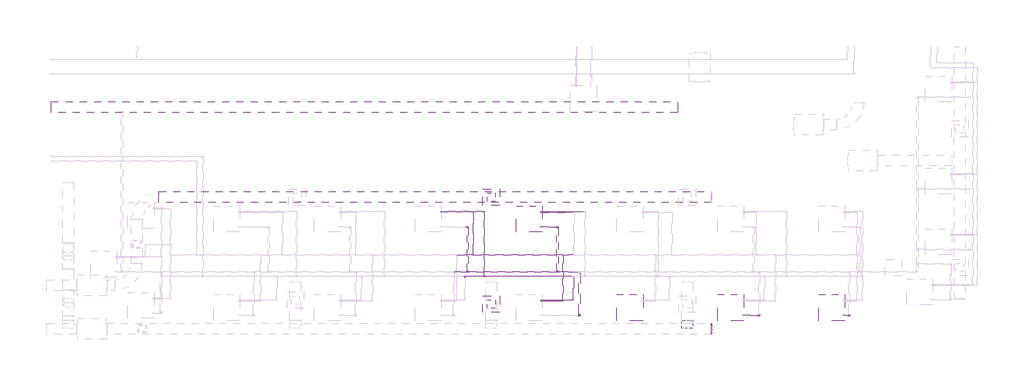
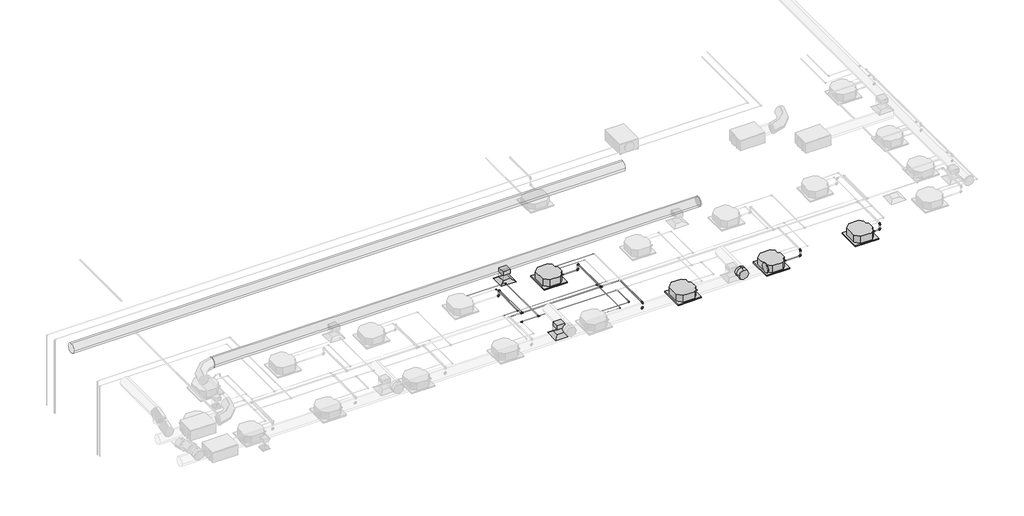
# One storey, part 9 of 22: 28 pipe fittings, 28 pipe segments, 4 duct fittings, 4 duct segments, 4 proxies, 2 air terminals.
"""IFC4 building model written with IfcOpenShell, lengths in millimetres."""

from ifc_helpers import new_model, si_unit, point, frame, frame_2d, origin, place, context, project, spatial, polyline, circle_curve, trimmed, segment, composite_curve, outline, extrude, transform, mapped, element, save
from components import air_terminal_ff221211, mechanical_equipment_53173f38, duct_fitting_2eb95573, duct_fitting_95c1ddea, m_capa_de_extremidade_redonda_c14c7098, pipe_fitting_062ba67a, pipe_fitting_144f4440, pipe_fitting_14eb6376, pipe_fitting_50f5d43d, pipe_fitting_bdfb9b50, pipe_fitting_02632e46, pipe_fitting_c900cfc2, pipe_fitting_16c020f5, pipe_fitting_fc585682, pipe_fitting_afe73776, pipe_fitting_09966660, pipe_fitting_59d1f3e3, pipe_fitting_648138cd, pipe_fitting_da16c1b3, pipe_fitting_5a6d96d3

model = new_model("IFC4")

# Units and contexts
model_context = context("Model", 3, world=origin())
ifc_project = project(units=[si_unit("LENGTHUNIT", "METRE", prefix="MILLI")], contexts=[model_context])

# Site, building, storey
site = spatial("IfcSite", under=ifc_project)
building = spatial("IfcBuilding", under=site)
storey = spatial("IfcBuildingStorey", under=building, Name="Nível 2", Elevation=3880.0)

# Air terminals
placement = place(None, origin())
air_terminal_shape = air_terminal_ff221211(model_context)
element("IfcAirTerminal", 1, ObjectType="M_Difusor de retorno : 600 x 600 Face 300 x 300 Conexão", at=placement, inside=storey, context=model_context, shape_type="MappedRepresentation", body=[
    mapped(air_terminal_shape, transform((13129.4277224, -3994.5831069, 6880.0), x_axis=(0.0, -1.0, 0.0), y_axis=(1.0, 0.0, 0.0), z_axis=(0.0, 0.0, 1.0))),
])
element("IfcAirTerminal", 2, ObjectType="M_Difusor de fornecimento : 600 x 600 Face 300 x 300 Conexão", at=placement, inside=storey, context=model_context, shape_type="MappedRepresentation", body=[
    mapped(air_terminal_shape, transform((13129.4277224, -7878.7092137, 6880.0), x_axis=(1.0, 0.0, 0.0), y_axis=(0.0, 1.0, 0.0), z_axis=(0.0, 0.0, 1.0))),
])

# Proxies
mechanical_equipment_shape = mechanical_equipment_53173f38(model_context)
element("IfcBuildingElementProxy", 3, Name="Midea_VRF_Indoor_4-way Cassette_MI-90(100,112,140)Q4_DHN1-D (2nd DC) : MI2-140Q4DHN1", ObjectType="Midea_VRF_Indoor_4-way Cassette_MI-90(100,112,140)Q4_DHN1-D (2nd DC) : MI2-140Q4DHN1", at=placement, inside=storey, context=model_context, shape_type="MappedRepresentation", body=[
    mapped(mechanical_equipment_shape, transform((25466.3682756, -8001.9200274, 6880.0), x_axis=(1.0, 0.0, 0.0), y_axis=(0.0, 1.0, 0.0), z_axis=(0.0, 0.0, 1.0))),
])
element("IfcBuildingElementProxy", 4, Name="Midea_VRF_Indoor_4-way Cassette_MI-90(100,112,140)Q4_DHN1-D (2nd DC) : MI2-140Q4DHN1", ObjectType="Midea_VRF_Indoor_4-way Cassette_MI-90(100,112,140)Q4_DHN1-D (2nd DC) : MI2-140Q4DHN1", at=placement, inside=storey, context=model_context, shape_type="MappedRepresentation", body=[
    mapped(mechanical_equipment_shape, transform((21812.1483041, -8001.9200274, 6880.0), x_axis=(1.0, 0.0, 0.0), y_axis=(0.0, 1.0, 0.0), z_axis=(0.0, 0.0, 1.0))),
])
element("IfcBuildingElementProxy", 5, Name="Midea_VRF_Indoor_4-way Cassette_MI-90(100,112,140)Q4_DHN1-D (2nd DC) : MI2-140Q4DHN1", ObjectType="Midea_VRF_Indoor_4-way Cassette_MI-90(100,112,140)Q4_DHN1-D (2nd DC) : MI2-140Q4DHN1", at=placement, inside=storey, context=model_context, shape_type="MappedRepresentation", body=[
    mapped(mechanical_equipment_shape, transform((18157.9283325, -8001.9200274, 6880.0), x_axis=(1.0, 0.0, 0.0), y_axis=(0.0, 1.0, 0.0), z_axis=(0.0, 0.0, 1.0))),
])
element("IfcBuildingElementProxy", 6, Name="Midea_VRF_Indoor_4-way Cassette_MI-90(100,112,140)Q4_DHN1-D (2nd DC) : MI2-140Q4DHN1", ObjectType="Midea_VRF_Indoor_4-way Cassette_MI-90(100,112,140)Q4_DHN1-D (2nd DC) : MI2-140Q4DHN1", at=placement, inside=storey, context=model_context, shape_type="MappedRepresentation", body=[
    mapped(mechanical_equipment_shape, transform((14503.708361, -4786.5566502, 6880.0), x_axis=(1.0, 0.0, 0.0), y_axis=(0.0, 1.0, 0.0), z_axis=(0.0, 0.0, 1.0))),
])

# Duct fittings
duct_fitting_shape = duct_fitting_2eb95573(model_context)
element("IfcDuctFitting", 7, ObjectType="M_Encaixe de duto redondo : Padrão", at=placement, inside=storey, context=model_context, shape_type="MappedRepresentation", body=[
    mapped(duct_fitting_shape, transform((20232.8009118, -8563.8997628, 7501.0), x_axis=(0.0, 1.0, 0.0), y_axis=(1.0, 0.0, 0.0), z_axis=(0.0, 0.0, -1.0))),
])
duct_fitting_2_shape = duct_fitting_95c1ddea(model_context)
element("IfcDuctFitting", 8, ObjectType="M_Encaixe de duto retangular : Padrão", at=placement, inside=storey, context=model_context, shape_type="MappedRepresentation", body=[
    mapped(duct_fitting_2_shape, transform((13129.4277224, -7878.7092137, 7301.0), x_axis=(0.0, 0.0, -1.0), y_axis=(0.0, -1.0, 0.0), z_axis=(-1.0, 0.0, 0.0))),
])
element("IfcDuctFitting", 9, ObjectType="M_Encaixe de duto retangular : Padrão", at=placement, inside=storey, context=model_context, shape_type="MappedRepresentation", body=[
    mapped(duct_fitting_2_shape, transform((13129.4277224, -3994.5831069, 7301.0), x_axis=(0.0, 0.0, -1.0), y_axis=(-1.0, 0.0, 0.0), z_axis=(0.0, 1.0, 0.0))),
])
m_capa_de_extremidade_redonda_shape = m_capa_de_extremidade_redonda_c14c7098(model_context)
element("IfcDuctFitting", 10, ObjectType="M_Capa de extremidade redonda : Padrão", at=placement, inside=storey, context=model_context, shape_type="MappedRepresentation", body=[
    mapped(m_capa_de_extremidade_redonda_shape, transform((21103.5312703, -8763.8997628, 7501.0), x_axis=(1.0, 0.0, 0.0), y_axis=(0.0, 1.0, 0.0), z_axis=(0.0, 0.0, 1.0))),
])

# Duct segments
element("IfcDuctSegment", 11, ObjectType="Torneiras / Raio curto", at=placement, inside=storey, context=model_context, shape_type="SweptSolid", body=[
    extrude(outline(composite_curve([segment(trimmed(circle_curve(frame_2d((-3994.5831069, 7501.0)), 200.0), [point((-4194.5831069, 7501.0))], [point((-3994.5831069, 7701.0))], False, "CARTESIAN"), True, "CONTINUOUS"), segment(trimmed(circle_curve(frame_2d((-3994.5831069, 7501.0)), 200.0), [point((-3994.5831069, 7701.0))], [point((-3794.5831069, 7501.0))], False, "CARTESIAN"), True, "CONTINUOUS"), segment(trimmed(circle_curve(frame_2d((-3994.5831069, 7501.0)), 200.0), [point((-3794.5831069, 7501.0))], [point((-3994.5831069, 7301.0))], False, "CARTESIAN"), True, "CONTINUOUS"), segment(trimmed(circle_curve(frame_2d((-3994.5831069, 7501.0)), 200.0), [point((-3994.5831069, 7301.0))], [point((-4194.5831069, 7501.0))], False, "CARTESIAN"), True, "CONTINUOUS")], self_intersect=False)), frame((1083.5312703, 0.0, 0.0), z_axis=(1.0, 0.0, 0.0), x_axis=(0.0, 1.0, 0.0)), (0.0, 0.0, 1.0), 20020.0),
])
element("IfcDuctSegment", 12, ObjectType="Raios cotovelos / torneiras", at=placement, inside=storey, context=model_context, shape_type="SweptSolid", body=[
    extrude(outline(polyline([(13279.4277224, -7728.7092137), (13279.4277224, -8028.7092137), (12979.4277224, -8028.7092137), (12979.4277224, -7728.7092137), (13279.4277224, -7728.7092137)])), frame((0.0, 0.0, 6981.6), z_axis=(0.0, 0.0, 1.0), x_axis=(1.0, 0.0, 0.0)), (0.0, 0.0, 1.0), 217.8),
])
element("IfcDuctSegment", 13, ObjectType="Raios cotovelos / torneiras", at=placement, inside=storey, context=model_context, shape_type="SweptSolid", body=[
    extrude(outline(polyline([(13279.4277224, -4144.5831069), (12979.4277224, -4144.5831069), (12979.4277224, -3844.5831069), (13279.4277224, -3844.5831069), (13279.4277224, -4144.5831069)])), frame((0.0, 0.0, 6981.6), z_axis=(0.0, 0.0, 1.0), x_axis=(1.0, 0.0, 0.0)), (0.0, 0.0, 1.0), 217.8),
])
element("IfcDuctSegment", 14, ObjectType="Torneiras / Raio curto", at=placement, inside=storey, context=model_context, shape_type="SweptSolid", body=[
    extrude(outline(composite_curve([segment(trimmed(circle_curve(frame_2d((-724.1631352, 7501.0)), 200.0), [point((-524.1631352, 7501.0))], [point((-724.1631352, 7301.0))], False, "CARTESIAN"), True, "CONTINUOUS"), segment(trimmed(circle_curve(frame_2d((-724.1631352, 7501.0)), 200.0), [point((-724.1631352, 7301.0))], [point((-924.1631352, 7501.0))], False, "CARTESIAN"), True, "CONTINUOUS"), segment(trimmed(circle_curve(frame_2d((-724.1631352, 7501.0)), 200.0), [point((-924.1631352, 7501.0))], [point((-724.1631352, 7701.0))], False, "CARTESIAN"), True, "CONTINUOUS"), segment(trimmed(circle_curve(frame_2d((-724.1631352, 7501.0)), 200.0), [point((-724.1631352, 7701.0))], [point((-524.1631352, 7501.0))], False, "CARTESIAN"), True, "CONTINUOUS")], self_intersect=False)), frame((-2817.3503695, 0.0, 0.0), z_axis=(1.0, 0.0, 0.0), x_axis=(0.0, 1.0, 0.0)), (0.0, 0.0, 1.0), 22700.0),
])

# Pipe fittings
pipe_fitting_shape = pipe_fitting_062ba67a(model_context)
element("IfcPipeFitting", 15, ObjectType="Cotovelo - PVC - CW : Padrão", at=placement, inside=storey, context=model_context, shape_type="MappedRepresentation", body=[
    mapped(pipe_fitting_shape, transform((26111.3682755, -8286.9200274, 7132.3), x_axis=(0.999999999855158, 0.0, -1.7020106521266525e-05), y_axis=(1.7020106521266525e-05, 0.0, 0.999999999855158), z_axis=(0.0, -1.0, 0.0))),
])
pipe_fitting_2_shape = pipe_fitting_144f4440(model_context)
element("IfcPipeFitting", 16, ObjectType="Cotovelo - PVC - CW : Padrão", at=placement, inside=storey, context=model_context, shape_type="MappedRepresentation", body=[
    mapped(pipe_fitting_2_shape, transform((12274.4883894, -5071.5566502, 7380.0), x_axis=(0.0, 0.0, 1.0), y_axis=(0.0, -1.0, 0.0), z_axis=(1.0, 0.0, 0.0))),
])
element("IfcPipeFitting", 17, ObjectType="Cotovelo - PVC - CW : Padrão", at=placement, inside=storey, context=model_context, shape_type="MappedRepresentation", body=[
    mapped(pipe_fitting_2_shape, transform((16328.708361, -8286.9200274, 7380.0), x_axis=(0.0, 0.0, 1.0), y_axis=(0.0, 1.0, 0.0), z_axis=(-1.0, 0.0, 0.0))),
])
element("IfcPipeFitting", 18, ObjectType="Cotovelo - PVC - CW : Padrão", at=placement, inside=storey, context=model_context, shape_type="MappedRepresentation", body=[
    mapped(pipe_fitting_2_shape, transform((15528.7083609, -5071.5566502, 7380.0), x_axis=(0.0, 0.0, 1.0), y_axis=(0.0, -1.0, 0.0), z_axis=(1.0, 0.0, 0.0))),
])
element("IfcPipeFitting", 19, ObjectType="Cotovelo - PVC - CW : Padrão", at=placement, inside=storey, context=model_context, shape_type="MappedRepresentation", body=[
    mapped(pipe_fitting_2_shape, transform((22837.148304, -8286.9200274, 7380.0), x_axis=(0.0, 0.0, 1.0), y_axis=(0.0, 1.0, 0.0), z_axis=(-1.0, 0.0, 0.0))),
])
element("IfcPipeFitting", 20, ObjectType="Cotovelo - PVC - CW : Padrão", at=placement, inside=storey, context=model_context, shape_type="MappedRepresentation", body=[
    mapped(pipe_fitting_2_shape, transform((26111.3682755, -8286.9200274, 7380.0), x_axis=(0.0, 0.0, 1.0), y_axis=(0.0, 1.0, 0.0), z_axis=(-1.0, 0.0, 0.0))),
])
pipe_fitting_3_shape = pipe_fitting_14eb6376(model_context)
element("IfcPipeFitting", 21, ObjectType="Tê de redução - PVC - CW : Padrão", at=placement, inside=storey, context=model_context, shape_type="MappedRepresentation", body=[
    mapped(pipe_fitting_3_shape, transform((12274.4883894, -6706.7007344, 7380.0), x_axis=(-1.0, 0.0, 0.0), y_axis=(0.0, -1.0, 0.0), z_axis=(0.0, 0.0, 1.0))),
])
element("IfcPipeFitting", 22, ObjectType="Tê de redução - PVC - CW : Padrão", at=placement, inside=storey, context=model_context, shape_type="MappedRepresentation", body=[
    mapped(pipe_fitting_3_shape, transform((15528.7083609, -6706.7007344, 7380.0), x_axis=(-1.0, 0.0, 0.0), y_axis=(0.0, -1.0, 0.0), z_axis=(0.0, 0.0, 1.0))),
])
pipe_fitting_4_shape = pipe_fitting_50f5d43d(model_context)
element("IfcPipeFitting", 23, ObjectType="Cotovelo - PVC - CW : Padrão", at=placement, inside=storey, context=model_context, shape_type="MappedRepresentation", body=[
    mapped(pipe_fitting_4_shape, transform((15528.7083609, -5071.5566502, 7132.3), x_axis=(0.9999999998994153, 0.0, -1.4183422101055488e-05), y_axis=(1.4183422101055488e-05, 0.0, 0.9999999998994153), z_axis=(0.0, -1.0, 0.0))),
])
element("IfcPipeFitting", 24, ObjectType="Cotovelo - PVC - CW : Padrão", at=placement, inside=storey, context=model_context, shape_type="MappedRepresentation", body=[
    mapped(pipe_fitting_4_shape, transform((22837.148304, -8286.9200274, 7132.3), x_axis=(0.9999999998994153, 0.0, -1.4183422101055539e-05), y_axis=(1.4183422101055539e-05, 0.0, 0.9999999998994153), z_axis=(0.0, -1.0, 0.0))),
])
pipe_fitting_5_shape = pipe_fitting_bdfb9b50(model_context)
element("IfcPipeFitting", 25, ObjectType="Cotovelo - PVC - CW : Padrão", at=placement, inside=storey, context=model_context, shape_type="MappedRepresentation", body=[
    mapped(pipe_fitting_5_shape, transform((12274.4883894, -5071.5566502, 7132.3), x_axis=(0.9999999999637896, 0.0, -8.510053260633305e-06), y_axis=(8.510053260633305e-06, 0.0, 0.9999999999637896), z_axis=(0.0, -1.0, 0.0))),
])
pipe_fitting_6_shape = pipe_fitting_02632e46(model_context)
element("IfcPipeFitting", 26, ObjectType="Cotovelo - PVC - CW : Padrão", at=placement, inside=storey, context=model_context, shape_type="MappedRepresentation", body=[
    mapped(pipe_fitting_6_shape, transform((16328.708361, -8286.9200274, 7132.3), x_axis=(0.9999999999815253, 0.0, -6.078609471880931e-06), y_axis=(6.078609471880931e-06, 0.0, 0.9999999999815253), z_axis=(0.0, -1.0, 0.0))),
])
pipe_fitting_7_shape = pipe_fitting_c900cfc2(model_context)
element("IfcPipeFitting", 27, ObjectType="Bucha de redução reta - Soldada - CU : Padrão", at=placement, inside=storey, context=model_context, shape_type="MappedRepresentation", body=[
    mapped(pipe_fitting_7_shape, transform((14928.708361, -7728.7092137, 7132.3085101), x_axis=(1.0, 0.0, 0.0), y_axis=(0.0, 1.0, 0.0), z_axis=(0.0, 0.0, 1.0))),
])
pipe_fitting_8_shape = pipe_fitting_16c020f5(model_context)
element("IfcPipeFitting", 28, ObjectType="Cotovelo - Soldado - CU : Padrão", at=placement, inside=storey, context=model_context, shape_type="MappedRepresentation", body=[
    mapped(pipe_fitting_8_shape, transform((16108.708361, -7728.7092137, 7132.3085101), x_axis=(1.0, 0.0, 0.0), y_axis=(0.0, 1.0, 0.0), z_axis=(0.0, 0.0, 1.0))),
])
element("IfcPipeFitting", 29, ObjectType="Cotovelo - Soldado - CU : Padrão", at=placement, inside=storey, context=model_context, shape_type="MappedRepresentation", body=[
    mapped(pipe_fitting_8_shape, transform((12874.4883894, -4513.3458366, 7132.3085101), x_axis=(0.0, 1.0, 0.0), y_axis=(-1.0, 0.0, 0.0), z_axis=(0.0, 0.0, 1.0))),
])
pipe_fitting_9_shape = pipe_fitting_fc585682(model_context)
element("IfcPipeFitting", 30, ObjectType="Bucha de redução reta - Soldada - CU : Padrão", at=placement, inside=storey, context=model_context, shape_type="MappedRepresentation", body=[
    mapped(pipe_fitting_9_shape, transform((14928.708361, -4513.3458366, 7132.3085101), x_axis=(1.0, 0.0, 0.0), y_axis=(0.0, 1.0, 0.0), z_axis=(0.0, 0.0, 1.0))),
])
pipe_fitting_10_shape = pipe_fitting_afe73776(model_context)
element("IfcPipeFitting", 31, ObjectType="Bucha de redução reta - Soldada - CU : Padrão", at=placement, inside=storey, context=model_context, shape_type="MappedRepresentation", body=[
    mapped(pipe_fitting_10_shape, transform((12174.4883894, -6898.1281922, 7132.3085101), x_axis=(0.0, -1.0, 0.0), y_axis=(1.0, 0.0, 0.0), z_axis=(0.0, 0.0, 1.0))),
])
element("IfcPipeFitting", 32, ObjectType="Bucha de redução reta - Soldada - CU : Padrão", at=placement, inside=storey, context=model_context, shape_type="MappedRepresentation", body=[
    mapped(pipe_fitting_10_shape, transform((12874.4883894, -6837.8071922, 7132.3085101), x_axis=(0.0, 1.0, 0.0), y_axis=(-1.0, 0.0, 0.0), z_axis=(0.0, 0.0, 1.0))),
])
pipe_fitting_11_shape = pipe_fitting_09966660(model_context)
element("IfcPipeFitting", 33, ObjectType="Tê - Soldado - CU : Padrão", at=placement, inside=storey, context=model_context, shape_type="MappedRepresentation", body=[
    mapped(pipe_fitting_11_shape, transform((12174.4883894, -6867.9676922, 7132.3085101), x_axis=(-1.0, 0.0, 0.0), y_axis=(0.0, 1.0, 0.0), z_axis=(0.0, 0.0, -1.0))),
])
element("IfcPipeFitting", 34, ObjectType="Tê - Soldado - CU : Padrão", at=placement, inside=storey, context=model_context, shape_type="MappedRepresentation", body=[
    mapped(pipe_fitting_11_shape, transform((12874.4883894, -6867.9676922, 7132.3085101), x_axis=(-1.0, 0.0, 0.0), y_axis=(0.0, -1.0, 0.0), z_axis=(0.0, 0.0, 1.0))),
])
pipe_fitting_12_shape = pipe_fitting_59d1f3e3(model_context)
element("IfcPipeFitting", 35, ObjectType="Bucha de redução reta - Soldada - CU : Padrão", at=placement, inside=storey, context=model_context, shape_type="MappedRepresentation", body=[
    mapped(pipe_fitting_12_shape, transform((14928.708361, -7762.5116556, 7026.8446487), x_axis=(1.0, 0.0, 0.0), y_axis=(0.0, 1.0, 0.0), z_axis=(0.0, 0.0, 1.0))),
])
element("IfcPipeFitting", 36, ObjectType="Bucha de redução reta - Soldada - CU : Padrão", at=placement, inside=storey, context=model_context, shape_type="MappedRepresentation", body=[
    mapped(pipe_fitting_12_shape, transform((14928.708361, -4547.1482784, 7026.8446487), x_axis=(1.0, 0.0, 0.0), y_axis=(0.0, 1.0, 0.0), z_axis=(0.0, 0.0, 1.0))),
])
pipe_fitting_13_shape = pipe_fitting_648138cd(model_context)
element("IfcPipeFitting", 37, ObjectType="Cotovelo - Soldado - CU : Padrão", at=placement, inside=storey, context=model_context, shape_type="MappedRepresentation", body=[
    mapped(pipe_fitting_13_shape, transform((15728.708361, -7762.5116556, 7026.8446487), x_axis=(1.0, 0.0, 0.0), y_axis=(0.0, 1.0, 0.0), z_axis=(0.0, 0.0, 1.0))),
])
element("IfcPipeFitting", 38, ObjectType="Cotovelo - Soldado - CU : Padrão", at=placement, inside=storey, context=model_context, shape_type="MappedRepresentation", body=[
    mapped(pipe_fitting_13_shape, transform((12474.4883894, -4547.1482784, 7026.8446487), x_axis=(0.0, 1.0, 0.0), y_axis=(-1.0, 0.0, 0.0), z_axis=(0.0, 0.0, 1.0))),
])
pipe_fitting_14_shape = pipe_fitting_da16c1b3(model_context)
element("IfcPipeFitting", 39, ObjectType="Tê - Soldado - CU : Padrão", at=placement, inside=storey, context=model_context, shape_type="MappedRepresentation", body=[
    mapped(pipe_fitting_14_shape, transform((15728.708361, -6091.0991488, 7026.8446487), x_axis=(-1.0, 0.0, 0.0), y_axis=(0.0, 1.0, 0.0), z_axis=(0.0, 0.0, -1.0))),
])
element("IfcPipeFitting", 40, ObjectType="Tê - Soldado - CU : Padrão", at=placement, inside=storey, context=model_context, shape_type="MappedRepresentation", body=[
    mapped(pipe_fitting_14_shape, transform((12474.4883894, -6091.0991488, 7026.8446487), x_axis=(-1.0, 0.0, 0.0), y_axis=(0.0, -1.0, 0.0), z_axis=(0.0, 0.0, 1.0))),
])
pipe_fitting_15_shape = pipe_fitting_5a6d96d3(model_context)
element("IfcPipeFitting", 41, ObjectType="Bucha de redução reta - Soldada - CU : Padrão", at=placement, inside=storey, context=model_context, shape_type="MappedRepresentation", body=[
    mapped(pipe_fitting_15_shape, transform((15728.708361, -6116.1161488, 7026.8446487), x_axis=(0.0, -1.0, 0.0), y_axis=(1.0, 0.0, 0.0), z_axis=(0.0, 0.0, 1.0))),
])
element("IfcPipeFitting", 42, ObjectType="Bucha de redução reta - Soldada - CU : Padrão", at=placement, inside=storey, context=model_context, shape_type="MappedRepresentation", body=[
    mapped(pipe_fitting_15_shape, transform((12474.4883894, -6066.0821488, 7026.8446487), x_axis=(0.0, 1.0, 0.0), y_axis=(-1.0, 0.0, 0.0), z_axis=(0.0, 0.0, 1.0))),
])

# Pipe segments
element("IfcPipeSegment", 43, ObjectType="Tubos de cobre HVAC", at=placement, inside=storey, context=model_context, shape_type="SweptSolid", body=[
    extrude(outline(composite_curve([segment(trimmed(circle_curve(frame_2d((-7728.7092137, 7132.3085101)), 7.935), [point((-7736.6442137, 7132.3085101))], [point((-7728.7092137, 7140.2435101))], False, "CARTESIAN"), True, "CONTINUOUS"), segment(trimmed(circle_curve(frame_2d((-7728.7092137, 7132.3085101)), 7.935), [point((-7728.7092137, 7140.2435101))], [point((-7720.7742137, 7132.3085101))], False, "CARTESIAN"), True, "CONTINUOUS"), segment(trimmed(circle_curve(frame_2d((-7728.7092137, 7132.3085101)), 7.935), [point((-7720.7742137, 7132.3085101))], [point((-7728.7092137, 7124.3735101))], False, "CARTESIAN"), True, "CONTINUOUS"), segment(trimmed(circle_curve(frame_2d((-7728.7092137, 7132.3085101)), 7.935), [point((-7728.7092137, 7124.3735101))], [point((-7736.6442137, 7132.3085101))], False, "CARTESIAN"), True, "CONTINUOUS")], self_intersect=False)), frame((14941.367261, 0.0, 0.0), z_axis=(1.0, 0.0, 0.0), x_axis=(0.0, 1.0, 0.0)), (0.0, 0.0, 1.0), 1138.3625),
])
element("IfcPipeSegment", 44, ObjectType="Tubos de cobre HVAC", at=placement, inside=storey, context=model_context, shape_type="SweptSolid", body=[
    extrude(outline(composite_curve([segment(trimmed(circle_curve(frame_2d((7132.3085101, 16108.708361)), 7.935), [point((7132.3085101, 16100.773361))], [point((7124.3735101, 16108.708361))], False, "CARTESIAN"), True, "CONTINUOUS"), segment(trimmed(circle_curve(frame_2d((7132.3085101, 16108.708361)), 7.935), [point((7124.3735101, 16108.708361))], [point((7132.3085101, 16116.643361))], False, "CARTESIAN"), True, "CONTINUOUS"), segment(trimmed(circle_curve(frame_2d((7132.3085101, 16108.708361)), 7.935), [point((7132.3085101, 16116.643361))], [point((7140.2435101, 16108.708361))], False, "CARTESIAN"), True, "CONTINUOUS"), segment(trimmed(circle_curve(frame_2d((7132.3085101, 16108.708361)), 7.935), [point((7140.2435101, 16108.708361))], [point((7132.3085101, 16100.773361))], False, "CARTESIAN"), True, "CONTINUOUS")], self_intersect=False)), frame((0.0, -7699.7306137, 0.0), z_axis=(0.0, 1.0, 0.0), x_axis=(0.0, 0.0, 1.0)), (0.0, 0.0, 1.0), 788.9435215),
])
element("IfcPipeSegment", 45, ObjectType="Tubos de cobre HVAC", at=placement, inside=storey, context=model_context, shape_type="SweptSolid", body=[
    extrude(outline(composite_curve([segment(trimmed(circle_curve(frame_2d((-6867.9676922, 7132.3085101)), 9.525), [point((-6877.4926922, 7132.3085101))], [point((-6867.9676922, 7141.8335101))], False, "CARTESIAN"), True, "CONTINUOUS"), segment(trimmed(circle_curve(frame_2d((-6867.9676922, 7132.3085101)), 9.525), [point((-6867.9676922, 7141.8335101))], [point((-6858.4426922, 7132.3085101))], False, "CARTESIAN"), True, "CONTINUOUS"), segment(trimmed(circle_curve(frame_2d((-6867.9676922, 7132.3085101)), 9.525), [point((-6858.4426922, 7132.3085101))], [point((-6867.9676922, 7122.7835101))], False, "CARTESIAN"), True, "CONTINUOUS"), segment(trimmed(circle_curve(frame_2d((-6867.9676922, 7132.3085101)), 9.525), [point((-6867.9676922, 7122.7835101))], [point((-6877.4926922, 7132.3085101))], False, "CARTESIAN"), True, "CONTINUOUS")], self_intersect=False)), frame((12904.6836394, 0.0, 0.0), z_axis=(1.0, 0.0, 0.0), x_axis=(0.0, 1.0, 0.0)), (0.0, 0.0, 1.0), 3173.8294715),
])
element("IfcPipeSegment", 46, ObjectType="Tubos de cobre HVAC", at=placement, inside=storey, context=model_context, shape_type="SweptSolid", body=[
    extrude(outline(composite_curve([segment(trimmed(circle_curve(frame_2d((-4513.3458366, 7132.3085101)), 9.525), [point((-4522.8708366, 7132.3085101))], [point((-4513.3458366, 7141.8335101))], False, "CARTESIAN"), True, "CONTINUOUS"), segment(trimmed(circle_curve(frame_2d((-4513.3458366, 7132.3085101)), 9.525), [point((-4513.3458366, 7141.8335101))], [point((-4503.8208366, 7132.3085101))], False, "CARTESIAN"), True, "CONTINUOUS"), segment(trimmed(circle_curve(frame_2d((-4513.3458366, 7132.3085101)), 9.525), [point((-4503.8208366, 7132.3085101))], [point((-4513.3458366, 7122.7835101))], False, "CARTESIAN"), True, "CONTINUOUS"), segment(trimmed(circle_curve(frame_2d((-4513.3458366, 7132.3085101)), 9.525), [point((-4513.3458366, 7122.7835101))], [point((-4522.8708366, 7132.3085101))], False, "CARTESIAN"), True, "CONTINUOUS")], self_intersect=False)), frame((14941.381361, 0.0, 0.0), z_axis=(1.0, 0.0, 0.0), x_axis=(0.0, 1.0, 0.0)), (0.0, 0.0, 1.0), 1555.868),
])
element("IfcPipeSegment", 47, ObjectType="Tubos de cobre HVAC", at=placement, inside=storey, context=model_context, shape_type="SweptSolid", body=[
    extrude(outline(composite_curve([segment(trimmed(circle_curve(frame_2d((-4513.3458366, 7132.3085101)), 7.935), [point((-4521.2808366, 7132.3085101))], [point((-4513.3458366, 7140.2435101))], False, "CARTESIAN"), True, "CONTINUOUS"), segment(trimmed(circle_curve(frame_2d((-4513.3458366, 7132.3085101)), 7.935), [point((-4513.3458366, 7140.2435101))], [point((-4505.4108366, 7132.3085101))], False, "CARTESIAN"), True, "CONTINUOUS"), segment(trimmed(circle_curve(frame_2d((-4513.3458366, 7132.3085101)), 7.935), [point((-4505.4108366, 7132.3085101))], [point((-4513.3458366, 7124.3735101))], False, "CARTESIAN"), True, "CONTINUOUS"), segment(trimmed(circle_curve(frame_2d((-4513.3458366, 7132.3085101)), 7.935), [point((-4513.3458366, 7124.3735101))], [point((-4521.2808366, 7132.3085101))], False, "CARTESIAN"), True, "CONTINUOUS")], self_intersect=False)), frame((11287.1472894, 0.0, 0.0), z_axis=(1.0, 0.0, 0.0), x_axis=(0.0, 1.0, 0.0)), (0.0, 0.0, 1.0), 1558.3625),
])
element("IfcPipeSegment", 48, ObjectType="Tubos de cobre HVAC", at=placement, inside=storey, context=model_context, shape_type="SweptSolid", body=[
    extrude(outline(composite_curve([segment(trimmed(circle_curve(frame_2d((7132.3085101, 12874.4883894)), 7.935), [point((7132.3085101, 12882.4233894))], [point((7140.2435101, 12874.4883894))], False, "CARTESIAN"), True, "CONTINUOUS"), segment(trimmed(circle_curve(frame_2d((7132.3085101, 12874.4883894)), 7.935), [point((7140.2435101, 12874.4883894))], [point((7132.3085101, 12866.5533894))], False, "CARTESIAN"), True, "CONTINUOUS"), segment(trimmed(circle_curve(frame_2d((7132.3085101, 12874.4883894)), 7.935), [point((7132.3085101, 12866.5533894))], [point((7124.3735101, 12874.4883894))], False, "CARTESIAN"), True, "CONTINUOUS"), segment(trimmed(circle_curve(frame_2d((7132.3085101, 12874.4883894)), 7.935), [point((7124.3735101, 12874.4883894))], [point((7132.3085101, 12882.4233894))], False, "CARTESIAN"), True, "CONTINUOUS")], self_intersect=False)), frame((0.0, -6825.1482922, 0.0), z_axis=(0.0, 1.0, 0.0), x_axis=(0.0, 0.0, 1.0)), (0.0, 0.0, 1.0), 2282.8238557),
])
element("IfcPipeSegment", 49, ObjectType="Tubos de cobre HVAC", at=placement, inside=storey, context=model_context, shape_type="SweptSolid", body=[
    extrude(outline(composite_curve([segment(trimmed(circle_curve(frame_2d((-6867.9676922, 7132.3085101)), 9.525), [point((-6877.4926922, 7132.3085101))], [point((-6867.9676922, 7141.8335101))], False, "CARTESIAN"), True, "CONTINUOUS"), segment(trimmed(circle_curve(frame_2d((-6867.9676922, 7132.3085101)), 9.525), [point((-6867.9676922, 7141.8335101))], [point((-6858.4426922, 7132.3085101))], False, "CARTESIAN"), True, "CONTINUOUS"), segment(trimmed(circle_curve(frame_2d((-6867.9676922, 7132.3085101)), 9.525), [point((-6858.4426922, 7132.3085101))], [point((-6867.9676922, 7122.7835101))], False, "CARTESIAN"), True, "CONTINUOUS"), segment(trimmed(circle_curve(frame_2d((-6867.9676922, 7132.3085101)), 9.525), [point((-6867.9676922, 7122.7835101))], [point((-6877.4926922, 7132.3085101))], False, "CARTESIAN"), True, "CONTINUOUS")], self_intersect=False)), frame((12204.6836394, 0.0, 0.0), z_axis=(1.0, 0.0, 0.0), x_axis=(0.0, 1.0, 0.0)), (0.0, 0.0, 1.0), 639.6095),
])
element("IfcPipeSegment", 50, ObjectType="Tubos de cobre HVAC", at=placement, inside=storey, context=model_context, shape_type="SweptSolid", body=[
    extrude(outline(composite_curve([segment(trimmed(circle_curve(frame_2d((-7762.5116556, 7026.8446487)), 4.76), [point((-7767.2716556, 7026.8446487))], [point((-7762.5116556, 7031.6046487))], False, "CARTESIAN"), True, "CONTINUOUS"), segment(trimmed(circle_curve(frame_2d((-7762.5116556, 7026.8446487)), 4.76), [point((-7762.5116556, 7031.6046487))], [point((-7757.7516556, 7026.8446487))], False, "CARTESIAN"), True, "CONTINUOUS"), segment(trimmed(circle_curve(frame_2d((-7762.5116556, 7026.8446487)), 4.76), [point((-7757.7516556, 7026.8446487))], [point((-7762.5116556, 7022.0846487))], False, "CARTESIAN"), True, "CONTINUOUS"), segment(trimmed(circle_curve(frame_2d((-7762.5116556, 7026.8446487)), 4.76), [point((-7762.5116556, 7022.0846487))], [point((-7767.2716556, 7026.8446487))], False, "CARTESIAN"), True, "CONTINUOUS")], self_intersect=False)), frame((14938.382761, 0.0, 0.0), z_axis=(1.0, 0.0, 0.0), x_axis=(0.0, 1.0, 0.0)), (0.0, 0.0, 1.0), 766.3),
])
element("IfcPipeSegment", 51, ObjectType="Tubos de cobre HVAC", at=placement, inside=storey, context=model_context, shape_type="SweptSolid", body=[
    extrude(outline(composite_curve([segment(trimmed(circle_curve(frame_2d((7026.8446487, 15728.708361)), 4.76), [point((7026.8446487, 15723.948361))], [point((7022.0846487, 15728.708361))], False, "CARTESIAN"), True, "CONTINUOUS"), segment(trimmed(circle_curve(frame_2d((7026.8446487, 15728.708361)), 4.76), [point((7022.0846487, 15728.708361))], [point((7026.8446487, 15733.468361))], False, "CARTESIAN"), True, "CONTINUOUS"), segment(trimmed(circle_curve(frame_2d((7026.8446487, 15728.708361)), 4.76), [point((7026.8446487, 15733.468361))], [point((7031.6046487, 15728.708361))], False, "CARTESIAN"), True, "CONTINUOUS"), segment(trimmed(circle_curve(frame_2d((7026.8446487, 15728.708361)), 4.76), [point((7031.6046487, 15728.708361))], [point((7026.8446487, 15723.948361))], False, "CARTESIAN"), True, "CONTINUOUS")], self_intersect=False)), frame((0.0, -7738.4860556, 0.0), z_axis=(0.0, 1.0, 0.0), x_axis=(0.0, 0.0, 1.0)), (0.0, 0.0, 1.0), 1612.6955068),
])
element("IfcPipeSegment", 52, ObjectType="Tubos de cobre HVAC", at=placement, inside=storey, context=model_context, shape_type="SweptSolid", body=[
    extrude(outline(composite_curve([segment(trimmed(circle_curve(frame_2d((-6091.0991488, 7026.8446487)), 6.35), [point((-6097.4491488, 7026.8446487))], [point((-6091.0991488, 7033.1946487))], False, "CARTESIAN"), True, "CONTINUOUS"), segment(trimmed(circle_curve(frame_2d((-6091.0991488, 7026.8446487)), 6.35), [point((-6091.0991488, 7033.1946487))], [point((-6084.7491488, 7026.8446487))], False, "CARTESIAN"), True, "CONTINUOUS"), segment(trimmed(circle_curve(frame_2d((-6091.0991488, 7026.8446487)), 6.35), [point((-6084.7491488, 7026.8446487))], [point((-6091.0991488, 7020.4946487))], False, "CARTESIAN"), True, "CONTINUOUS"), segment(trimmed(circle_curve(frame_2d((-6091.0991488, 7026.8446487)), 6.35), [point((-6091.0991488, 7020.4946487))], [point((-6097.4491488, 7026.8446487))], False, "CARTESIAN"), True, "CONTINUOUS")], self_intersect=False)), frame((12499.5718894, 0.0, 0.0), z_axis=(1.0, 0.0, 0.0), x_axis=(0.0, 1.0, 0.0)), (0.0, 0.0, 1.0), 3204.0529715),
])
element("IfcPipeSegment", 53, ObjectType="Tubos de cobre HVAC", at=placement, inside=storey, context=model_context, shape_type="SweptSolid", body=[
    extrude(outline(composite_curve([segment(trimmed(circle_curve(frame_2d((-4547.1482784, 7026.8446487)), 4.76), [point((-4551.9082784, 7026.8446487))], [point((-4547.1482784, 7031.6046487))], False, "CARTESIAN"), True, "CONTINUOUS"), segment(trimmed(circle_curve(frame_2d((-4547.1482784, 7026.8446487)), 4.76), [point((-4547.1482784, 7031.6046487))], [point((-4542.3882784, 7026.8446487))], False, "CARTESIAN"), True, "CONTINUOUS"), segment(trimmed(circle_curve(frame_2d((-4547.1482784, 7026.8446487)), 4.76), [point((-4542.3882784, 7026.8446487))], [point((-4547.1482784, 7022.0846487))], False, "CARTESIAN"), True, "CONTINUOUS"), segment(trimmed(circle_curve(frame_2d((-4547.1482784, 7026.8446487)), 4.76), [point((-4547.1482784, 7022.0846487))], [point((-4551.9082784, 7026.8446487))], False, "CARTESIAN"), True, "CONTINUOUS")], self_intersect=False)), frame((14938.382761, 0.0, 0.0), z_axis=(1.0, 0.0, 0.0), x_axis=(0.0, 1.0, 0.0)), (0.0, 0.0, 1.0), 1166.3),
])
element("IfcPipeSegment", 54, ObjectType="Tubos de cobre HVAC", at=placement, inside=storey, context=model_context, shape_type="SweptSolid", body=[
    extrude(outline(composite_curve([segment(trimmed(circle_curve(frame_2d((-6091.0991488, 7026.8446487)), 6.35), [point((-6097.4491488, 7026.8446487))], [point((-6091.0991488, 7033.1946487))], False, "CARTESIAN"), True, "CONTINUOUS"), segment(trimmed(circle_curve(frame_2d((-6091.0991488, 7026.8446487)), 6.35), [point((-6091.0991488, 7033.1946487))], [point((-6084.7491488, 7026.8446487))], False, "CARTESIAN"), True, "CONTINUOUS"), segment(trimmed(circle_curve(frame_2d((-6091.0991488, 7026.8446487)), 6.35), [point((-6084.7491488, 7026.8446487))], [point((-6091.0991488, 7020.4946487))], False, "CARTESIAN"), True, "CONTINUOUS"), segment(trimmed(circle_curve(frame_2d((-6091.0991488, 7026.8446487)), 6.35), [point((-6091.0991488, 7020.4946487))], [point((-6097.4491488, 7026.8446487))], False, "CARTESIAN"), True, "CONTINUOUS")], self_intersect=False)), frame((15753.791861, 0.0, 0.0), z_axis=(1.0, 0.0, 0.0), x_axis=(0.0, 1.0, 0.0)), (0.0, 0.0, 1.0), 349.833),
])
element("IfcPipeSegment", 55, ObjectType="Tubos de cobre HVAC", at=placement, inside=storey, context=model_context, shape_type="SweptSolid", body=[
    extrude(outline(composite_curve([segment(trimmed(circle_curve(frame_2d((7026.8446487, 12474.4883894)), 4.76), [point((7026.8446487, 12479.2483894))], [point((7031.6046487, 12474.4883894))], False, "CARTESIAN"), True, "CONTINUOUS"), segment(trimmed(circle_curve(frame_2d((7026.8446487, 12474.4883894)), 4.76), [point((7031.6046487, 12474.4883894))], [point((7026.8446487, 12469.7283894))], False, "CARTESIAN"), True, "CONTINUOUS"), segment(trimmed(circle_curve(frame_2d((7026.8446487, 12474.4883894)), 4.76), [point((7026.8446487, 12469.7283894))], [point((7022.0846487, 12474.4883894))], False, "CARTESIAN"), True, "CONTINUOUS"), segment(trimmed(circle_curve(frame_2d((7026.8446487, 12474.4883894)), 4.76), [point((7022.0846487, 12474.4883894))], [point((7026.8446487, 12479.2483894))], False, "CARTESIAN"), True, "CONTINUOUS")], self_intersect=False)), frame((0.0, -6056.4077488, 0.0), z_axis=(0.0, 1.0, 0.0), x_axis=(0.0, 0.0, 1.0)), (0.0, 0.0, 1.0), 1485.2338704),
])
element("IfcPipeSegment", 56, ObjectType="Tubos de cobre HVAC", at=placement, inside=storey, context=model_context, shape_type="SweptSolid", body=[
    extrude(outline(composite_curve([segment(trimmed(circle_curve(frame_2d((-6091.0991488, 7026.8446487)), 6.35), [point((-6097.4491488, 7026.8446487))], [point((-6091.0991488, 7033.1946487))], False, "CARTESIAN"), True, "CONTINUOUS"), segment(trimmed(circle_curve(frame_2d((-6091.0991488, 7026.8446487)), 6.35), [point((-6091.0991488, 7033.1946487))], [point((-6084.7491488, 7026.8446487))], False, "CARTESIAN"), True, "CONTINUOUS"), segment(trimmed(circle_curve(frame_2d((-6091.0991488, 7026.8446487)), 6.35), [point((-6084.7491488, 7026.8446487))], [point((-6091.0991488, 7020.4946487))], False, "CARTESIAN"), True, "CONTINUOUS"), segment(trimmed(circle_curve(frame_2d((-6091.0991488, 7026.8446487)), 6.35), [point((-6091.0991488, 7020.4946487))], [point((-6097.4491488, 7026.8446487))], False, "CARTESIAN"), True, "CONTINUOUS")], self_intersect=False)), frame((11899.5718894, 0.0, 0.0), z_axis=(1.0, 0.0, 0.0), x_axis=(0.0, 1.0, 0.0)), (0.0, 0.0, 1.0), 549.833),
])
element("IfcPipeSegment", 57, ObjectType="Plástico", at=placement, inside=storey, context=model_context, shape_type="SweptSolid", body=[
    extrude(outline(composite_curve([segment(trimmed(circle_curve(frame_2d((12274.4883894, -5071.5566502)), 20.0), [point((12294.4883894, -5071.5566502))], [point((12274.4883894, -5091.5566502))], False, "CARTESIAN"), True, "CONTINUOUS"), segment(trimmed(circle_curve(frame_2d((12274.4883894, -5071.5566502)), 20.0), [point((12274.4883894, -5091.5566502))], [point((12254.4883894, -5071.5566502))], False, "CARTESIAN"), True, "CONTINUOUS"), segment(trimmed(circle_curve(frame_2d((12274.4883894, -5071.5566502)), 20.0), [point((12254.4883894, -5071.5566502))], [point((12274.4883894, -5051.5566502))], False, "CARTESIAN"), True, "CONTINUOUS"), segment(trimmed(circle_curve(frame_2d((12274.4883894, -5071.5566502)), 20.0), [point((12274.4883894, -5051.5566502))], [point((12294.4883894, -5071.5566502))], False, "CARTESIAN"), True, "CONTINUOUS")], self_intersect=False)), frame((0.0, 0.0, 7177.3001957), z_axis=(0.0, 0.0, 1.0), x_axis=(1.0, 0.0, 0.0)), (0.0, 0.0, 1.0), 157.6998043),
])
element("IfcPipeSegment", 58, ObjectType="Plástico", at=placement, inside=storey, context=model_context, shape_type="SweptSolid", body=[
    extrude(outline(composite_curve([segment(trimmed(circle_curve(frame_2d((7380.0, 12274.4883894)), 20.0), [point((7380.0, 12294.4883894))], [point((7400.0, 12274.4883894))], False, "CARTESIAN"), True, "CONTINUOUS"), segment(trimmed(circle_curve(frame_2d((7380.0, 12274.4883894)), 20.0), [point((7400.0, 12274.4883894))], [point((7380.0, 12254.4883894))], False, "CARTESIAN"), True, "CONTINUOUS"), segment(trimmed(circle_curve(frame_2d((7380.0, 12274.4883894)), 20.0), [point((7380.0, 12254.4883894))], [point((7360.0, 12274.4883894))], False, "CARTESIAN"), True, "CONTINUOUS"), segment(trimmed(circle_curve(frame_2d((7380.0, 12274.4883894)), 20.0), [point((7360.0, 12274.4883894))], [point((7380.0, 12294.4883894))], False, "CARTESIAN"), True, "CONTINUOUS")], self_intersect=False)), frame((0.0, -6662.7007344, 0.0), z_axis=(0.0, 1.0, 0.0), x_axis=(0.0, 0.0, 1.0)), (0.0, 0.0, 1.0), 1546.1440842),
])
element("IfcPipeSegment", 59, ObjectType="Plástico", at=placement, inside=storey, context=model_context, shape_type="SweptSolid", body=[
    extrude(outline(composite_curve([segment(trimmed(circle_curve(frame_2d((-6706.7007344, 7380.0)), 20.0), [point((-6726.7007344, 7380.0))], [point((-6706.7007344, 7400.0))], False, "CARTESIAN"), True, "CONTINUOUS"), segment(trimmed(circle_curve(frame_2d((-6706.7007344, 7380.0)), 20.0), [point((-6706.7007344, 7400.0))], [point((-6686.7007344, 7380.0))], False, "CARTESIAN"), True, "CONTINUOUS"), segment(trimmed(circle_curve(frame_2d((-6706.7007344, 7380.0)), 20.0), [point((-6686.7007344, 7380.0))], [point((-6706.7007344, 7360.0))], False, "CARTESIAN"), True, "CONTINUOUS"), segment(trimmed(circle_curve(frame_2d((-6706.7007344, 7380.0)), 20.0), [point((-6706.7007344, 7360.0))], [point((-6726.7007344, 7380.0))], False, "CARTESIAN"), True, "CONTINUOUS")], self_intersect=False)), frame((11817.7383894, 0.0, 0.0), z_axis=(1.0, 0.0, 0.0), x_axis=(0.0, 1.0, 0.0)), (0.0, 0.0, 1.0), 413.5),
])
element("IfcPipeSegment", 60, ObjectType="Plástico", at=placement, inside=storey, context=model_context, shape_type="SweptSolid", body=[
    extrude(outline(composite_curve([segment(trimmed(circle_curve(frame_2d((16328.708361, -8286.9200274)), 20.0), [point((16308.708361, -8286.9200274))], [point((16328.708361, -8266.9200274))], False, "CARTESIAN"), True, "CONTINUOUS"), segment(trimmed(circle_curve(frame_2d((16328.708361, -8286.9200274)), 20.0), [point((16328.708361, -8266.9200274))], [point((16348.708361, -8286.9200274))], False, "CARTESIAN"), True, "CONTINUOUS"), segment(trimmed(circle_curve(frame_2d((16328.708361, -8286.9200274)), 20.0), [point((16348.708361, -8286.9200274))], [point((16328.708361, -8306.9200274))], False, "CARTESIAN"), True, "CONTINUOUS"), segment(trimmed(circle_curve(frame_2d((16328.708361, -8286.9200274)), 20.0), [point((16328.708361, -8306.9200274))], [point((16308.708361, -8286.9200274))], False, "CARTESIAN"), True, "CONTINUOUS")], self_intersect=False)), frame((0.0, 0.0, 7177.3001398), z_axis=(0.0, 0.0, 1.0), x_axis=(1.0, 0.0, 0.0)), (0.0, 0.0, 1.0), 157.6998602),
])
element("IfcPipeSegment", 61, ObjectType="Plástico", at=placement, inside=storey, context=model_context, shape_type="SweptSolid", body=[
    extrude(outline(composite_curve([segment(trimmed(circle_curve(frame_2d((7380.0, 16328.708361)), 20.0), [point((7380.0, 16308.708361))], [point((7360.0, 16328.708361))], False, "CARTESIAN"), True, "CONTINUOUS"), segment(trimmed(circle_curve(frame_2d((7380.0, 16328.708361)), 20.0), [point((7360.0, 16328.708361))], [point((7380.0, 16348.708361))], False, "CARTESIAN"), True, "CONTINUOUS"), segment(trimmed(circle_curve(frame_2d((7380.0, 16328.708361)), 20.0), [point((7380.0, 16348.708361))], [point((7400.0, 16328.708361))], False, "CARTESIAN"), True, "CONTINUOUS"), segment(trimmed(circle_curve(frame_2d((7380.0, 16328.708361)), 20.0), [point((7400.0, 16328.708361))], [point((7380.0, 16308.708361))], False, "CARTESIAN"), True, "CONTINUOUS")], self_intersect=False)), frame((0.0, -8241.9200274, 0.0), z_axis=(0.0, 1.0, 0.0), x_axis=(0.0, 0.0, 1.0)), (0.0, 0.0, 1.0), 1491.219293),
])
element("IfcPipeSegment", 62, ObjectType="Plástico", at=placement, inside=storey, context=model_context, shape_type="SweptSolid", body=[
    extrude(outline(composite_curve([segment(trimmed(circle_curve(frame_2d((-6706.7007344, 7380.0)), 20.0), [point((-6726.7007344, 7380.0))], [point((-6706.7007344, 7400.0))], False, "CARTESIAN"), True, "CONTINUOUS"), segment(trimmed(circle_curve(frame_2d((-6706.7007344, 7380.0)), 20.0), [point((-6706.7007344, 7400.0))], [point((-6686.7007344, 7380.0))], False, "CARTESIAN"), True, "CONTINUOUS"), segment(trimmed(circle_curve(frame_2d((-6706.7007344, 7380.0)), 20.0), [point((-6686.7007344, 7380.0))], [point((-6706.7007344, 7360.0))], False, "CARTESIAN"), True, "CONTINUOUS"), segment(trimmed(circle_curve(frame_2d((-6706.7007344, 7380.0)), 20.0), [point((-6706.7007344, 7360.0))], [point((-6726.7007344, 7380.0))], False, "CARTESIAN"), True, "CONTINUOUS")], self_intersect=False)), frame((15571.9583609, 0.0, 0.0), z_axis=(1.0, 0.0, 0.0), x_axis=(0.0, 1.0, 0.0)), (0.0, 0.0, 1.0), 713.5),
])
element("IfcPipeSegment", 63, ObjectType="Plástico", at=placement, inside=storey, context=model_context, shape_type="SweptSolid", body=[
    extrude(outline(composite_curve([segment(trimmed(circle_curve(frame_2d((0.0, -20.0)), 20.0), [point((-20.0, -20.0))], [point((0.0, 0.0))], False, "CARTESIAN"), True, "CONTINUOUS"), segment(trimmed(circle_curve(frame_2d((0.0, -20.0)), 20.0), [point((0.0, 0.0))], [point((20.0, -20.0))], False, "CARTESIAN"), True, "CONTINUOUS"), segment(trimmed(circle_curve(frame_2d((0.0, -20.0)), 20.0), [point((20.0, -20.0))], [point((0.0, -40.0))], False, "CARTESIAN"), True, "CONTINUOUS"), segment(trimmed(circle_curve(frame_2d((0.0, -20.0)), 20.0), [point((0.0, -40.0))], [point((-20.0, -20.0))], False, "CARTESIAN"), True, "CONTINUOUS")], self_intersect=False)), frame((15483.707751, -5071.5566502, 7112.3006383), z_axis=(-0.9999999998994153, 0.0, 1.4183422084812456e-05), x_axis=(0.0, 1.0, 0.0)), (0.0, 0.0, 1.0), 554.9996738),
])
element("IfcPipeSegment", 64, ObjectType="Plástico", at=placement, inside=storey, context=model_context, shape_type="SweptSolid", body=[
    extrude(outline(composite_curve([segment(trimmed(circle_curve(frame_2d((15528.7083609, -5071.5566502)), 20.0), [point((15548.7083609, -5071.5566502))], [point((15528.7083609, -5091.5566502))], False, "CARTESIAN"), True, "CONTINUOUS"), segment(trimmed(circle_curve(frame_2d((15528.7083609, -5071.5566502)), 20.0), [point((15528.7083609, -5091.5566502))], [point((15508.7083609, -5071.5566502))], False, "CARTESIAN"), True, "CONTINUOUS"), segment(trimmed(circle_curve(frame_2d((15528.7083609, -5071.5566502)), 20.0), [point((15508.7083609, -5071.5566502))], [point((15528.7083609, -5051.5566502))], False, "CARTESIAN"), True, "CONTINUOUS"), segment(trimmed(circle_curve(frame_2d((15528.7083609, -5071.5566502)), 20.0), [point((15528.7083609, -5051.5566502))], [point((15548.7083609, -5071.5566502))], False, "CARTESIAN"), True, "CONTINUOUS")], self_intersect=False)), frame((0.0, 0.0, 7177.3003262), z_axis=(0.0, 0.0, 1.0), x_axis=(1.0, 0.0, 0.0)), (0.0, 0.0, 1.0), 157.6996738),
])
element("IfcPipeSegment", 65, ObjectType="Plástico", at=placement, inside=storey, context=model_context, shape_type="SweptSolid", body=[
    extrude(outline(composite_curve([segment(trimmed(circle_curve(frame_2d((7380.0, 15528.7083609)), 20.0), [point((7380.0, 15548.7083609))], [point((7400.0, 15528.7083609))], False, "CARTESIAN"), True, "CONTINUOUS"), segment(trimmed(circle_curve(frame_2d((7380.0, 15528.7083609)), 20.0), [point((7400.0, 15528.7083609))], [point((7380.0, 15508.7083609))], False, "CARTESIAN"), True, "CONTINUOUS"), segment(trimmed(circle_curve(frame_2d((7380.0, 15528.7083609)), 20.0), [point((7380.0, 15508.7083609))], [point((7360.0, 15528.7083609))], False, "CARTESIAN"), True, "CONTINUOUS"), segment(trimmed(circle_curve(frame_2d((7380.0, 15528.7083609)), 20.0), [point((7360.0, 15528.7083609))], [point((7380.0, 15548.7083609))], False, "CARTESIAN"), True, "CONTINUOUS")], self_intersect=False)), frame((0.0, -6662.7007344, 0.0), z_axis=(0.0, 1.0, 0.0), x_axis=(0.0, 0.0, 1.0)), (0.0, 0.0, 1.0), 1546.1440842),
])
element("IfcPipeSegment", 66, ObjectType="Plástico", at=placement, inside=storey, context=model_context, shape_type="SweptSolid", body=[
    extrude(outline(composite_curve([segment(trimmed(circle_curve(frame_2d((-6706.7007344, 7380.0)), 20.0), [point((-6726.7007344, 7380.0))], [point((-6706.7007344, 7400.0))], False, "CARTESIAN"), True, "CONTINUOUS"), segment(trimmed(circle_curve(frame_2d((-6706.7007344, 7380.0)), 20.0), [point((-6706.7007344, 7400.0))], [point((-6686.7007344, 7380.0))], False, "CARTESIAN"), True, "CONTINUOUS"), segment(trimmed(circle_curve(frame_2d((-6706.7007344, 7380.0)), 20.0), [point((-6686.7007344, 7380.0))], [point((-6706.7007344, 7360.0))], False, "CARTESIAN"), True, "CONTINUOUS"), segment(trimmed(circle_curve(frame_2d((-6706.7007344, 7380.0)), 20.0), [point((-6706.7007344, 7360.0))], [point((-6726.7007344, 7380.0))], False, "CARTESIAN"), True, "CONTINUOUS")], self_intersect=False)), frame((12317.7383894, 0.0, 0.0), z_axis=(1.0, 0.0, 0.0), x_axis=(0.0, 1.0, 0.0)), (0.0, 0.0, 1.0), 3167.7199715),
])
element("IfcPipeSegment", 67, ObjectType="Plástico", at=placement, inside=storey, context=model_context, shape_type="SweptSolid", body=[
    extrude(outline(composite_curve([segment(trimmed(circle_curve(frame_2d((0.0, -20.0)), 20.0), [point((-20.0, -20.0))], [point((0.0, 0.0))], False, "CARTESIAN"), True, "CONTINUOUS"), segment(trimmed(circle_curve(frame_2d((0.0, -20.0)), 20.0), [point((0.0, 0.0))], [point((20.0, -20.0))], False, "CARTESIAN"), True, "CONTINUOUS"), segment(trimmed(circle_curve(frame_2d((0.0, -20.0)), 20.0), [point((20.0, -20.0))], [point((0.0, -40.0))], False, "CARTESIAN"), True, "CONTINUOUS"), segment(trimmed(circle_curve(frame_2d((0.0, -20.0)), 20.0), [point((0.0, -40.0))], [point((-20.0, -20.0))], False, "CARTESIAN"), True, "CONTINUOUS")], self_intersect=False)), frame((22792.1476941, -8286.9200274, 7112.3006383), z_axis=(-0.9999999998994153, 0.0, 1.4183422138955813e-05), x_axis=(0.0, 1.0, 0.0)), (0.0, 0.0, 1.0), 554.9996738),
])
element("IfcPipeSegment", 68, ObjectType="Plástico", at=placement, inside=storey, context=model_context, shape_type="SweptSolid", body=[
    extrude(outline(composite_curve([segment(trimmed(circle_curve(frame_2d((22837.148304, -8286.9200274)), 20.0), [point((22857.148304, -8286.9200274))], [point((22837.148304, -8306.9200274))], False, "CARTESIAN"), True, "CONTINUOUS"), segment(trimmed(circle_curve(frame_2d((22837.148304, -8286.9200274)), 20.0), [point((22837.148304, -8306.9200274))], [point((22817.148304, -8286.9200274))], False, "CARTESIAN"), True, "CONTINUOUS"), segment(trimmed(circle_curve(frame_2d((22837.148304, -8286.9200274)), 20.0), [point((22817.148304, -8286.9200274))], [point((22837.148304, -8266.9200274))], False, "CARTESIAN"), True, "CONTINUOUS"), segment(trimmed(circle_curve(frame_2d((22837.148304, -8286.9200274)), 20.0), [point((22837.148304, -8266.9200274))], [point((22857.148304, -8286.9200274))], False, "CARTESIAN"), True, "CONTINUOUS")], self_intersect=False)), frame((0.0, 0.0, 7177.3003262), z_axis=(0.0, 0.0, 1.0), x_axis=(1.0, 0.0, 0.0)), (0.0, 0.0, 1.0), 157.6996738),
])
element("IfcPipeSegment", 69, ObjectType="Plástico", at=placement, inside=storey, context=model_context, shape_type="SweptSolid", body=[
    extrude(outline(composite_curve([segment(trimmed(circle_curve(frame_2d((0.0, -20.0)), 20.0), [point((-20.0, -20.0))], [point((0.0, 0.0))], False, "CARTESIAN"), True, "CONTINUOUS"), segment(trimmed(circle_curve(frame_2d((0.0, -20.0)), 20.0), [point((0.0, 0.0))], [point((20.0, -20.0))], False, "CARTESIAN"), True, "CONTINUOUS"), segment(trimmed(circle_curve(frame_2d((0.0, -20.0)), 20.0), [point((20.0, -20.0))], [point((0.0, -40.0))], False, "CARTESIAN"), True, "CONTINUOUS"), segment(trimmed(circle_curve(frame_2d((0.0, -20.0)), 20.0), [point((0.0, -40.0))], [point((-20.0, -20.0))], False, "CARTESIAN"), True, "CONTINUOUS")], self_intersect=False)), frame((26066.366999, -8286.9200274, 7112.3007659), z_axis=(-0.9999999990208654, 0.0, 4.425233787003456e-05), x_axis=(0.0, 1.0, 0.0)), (0.0, 0.0, 1.0), 174.9996086),
])
element("IfcPipeSegment", 70, ObjectType="Plástico", at=placement, inside=storey, context=model_context, shape_type="SweptSolid", body=[
    extrude(outline(composite_curve([segment(trimmed(circle_curve(frame_2d((26111.3682755, -8286.9200274)), 20.0), [point((26131.3682755, -8286.9200274))], [point((26111.3682755, -8306.9200274))], False, "CARTESIAN"), True, "CONTINUOUS"), segment(trimmed(circle_curve(frame_2d((26111.3682755, -8286.9200274)), 20.0), [point((26111.3682755, -8306.9200274))], [point((26091.3682755, -8286.9200274))], False, "CARTESIAN"), True, "CONTINUOUS"), segment(trimmed(circle_curve(frame_2d((26111.3682755, -8286.9200274)), 20.0), [point((26091.3682755, -8286.9200274))], [point((26111.3682755, -8266.9200274))], False, "CARTESIAN"), True, "CONTINUOUS"), segment(trimmed(circle_curve(frame_2d((26111.3682755, -8286.9200274)), 20.0), [point((26111.3682755, -8266.9200274))], [point((26131.3682755, -8286.9200274))], False, "CARTESIAN"), True, "CONTINUOUS")], self_intersect=False)), frame((0.0, 0.0, 7177.3003915), z_axis=(0.0, 0.0, 1.0), x_axis=(1.0, 0.0, 0.0)), (0.0, 0.0, 1.0), 157.6996085),
])

save(model, "model.ifc")
